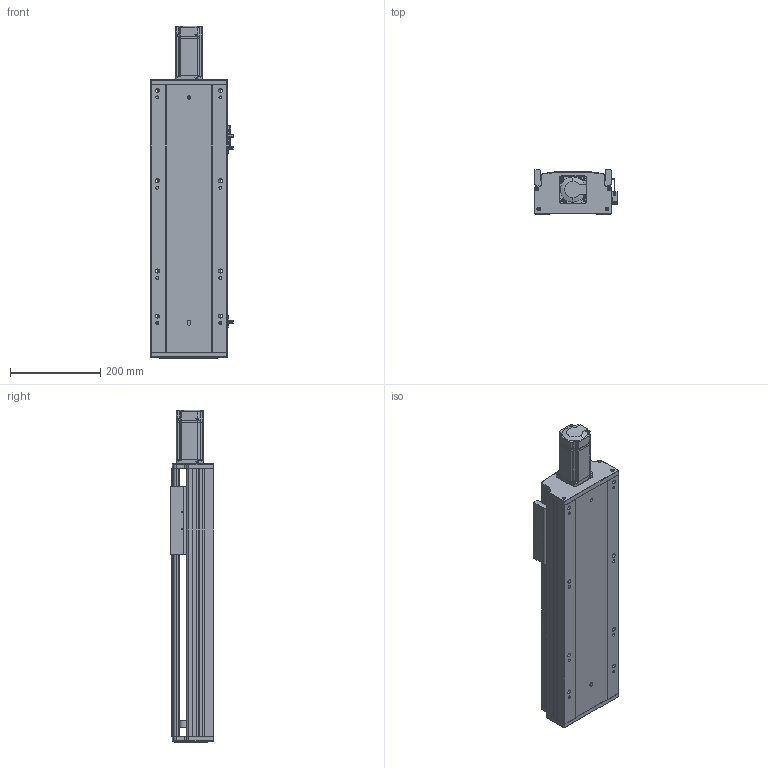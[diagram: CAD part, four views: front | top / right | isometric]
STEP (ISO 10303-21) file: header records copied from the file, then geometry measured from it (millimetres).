
FILE_DESCRIPTION (( 'STEP AP203' ), '1' );
FILE_NAME ('RY170Q-L2020-400-MK.SLDASM_0350.step', '2021-05-31T02:02:14', ( '盈信电脑' ), ( '东莞市道滘镇水果街19号' ), 'SwSTEP 2.0', 'SolidWorks 2016', '' );
FILE_SCHEMA (( 'CONFIG_CONTROL_DESIGN' ));
Length unit declared in the file: millimetre
Products named in the file (12): RY170外置感应片(200共用）; RY170Q臏賑輸20佪裝蹟譫(FK15); RY170Q-L2020-400-MK.SLDASM_0350; 覜茼ん672; 侂狟400W侜督萇儂; RY170Q-400倰第菁釱-MK_0350; RY170綴裔啣; 滅袉蝶18-10; RY170Q-400倰第裔啣-MK_0350; 滅袉蝶18-15; 15; RY170ヶ醱裔啣
Assembly tree (14 placements, depth 3):
  RY170Q-L2020-400-MK.SLDASM_0350
    RY170Q-400倰第菁釱-MK_0350
    RY170Q-400倰第裔啣-MK_0350
    RY170Q臏賑輸20佪裝蹟譫(FK15)
    侂狟400W侜督萇儂
      15
    RY170綴裔啣
    覜茼ん672  x3
    RY170外置感应片(200共用）
    RY170ヶ醱裔啣
    滅袉蝶18-15  x2
    滅袉蝶18-10
Bounding box: 183.7 x 97 x 736.5 mm (x, y, z)
Volume: 3501346.5 mm3; surface area: 1084066.5 mm2
Topology: 13 solids, 13 shells, 2092 faces, 5907 edges, 3829 vertices
Faces by surface type: plane 1185, cylinder 729, cone 149, bspline 29
Entity records: 64982 total; most frequent: CARTESIAN_POINT 13961, ORIENTED_EDGE 10618, DIRECTION 10116, EDGE_CURVE 5309, VECTOR 3512, LINE 3512, VERTEX_POINT 3497, AXIS2_PLACEMENT_3D 3302
